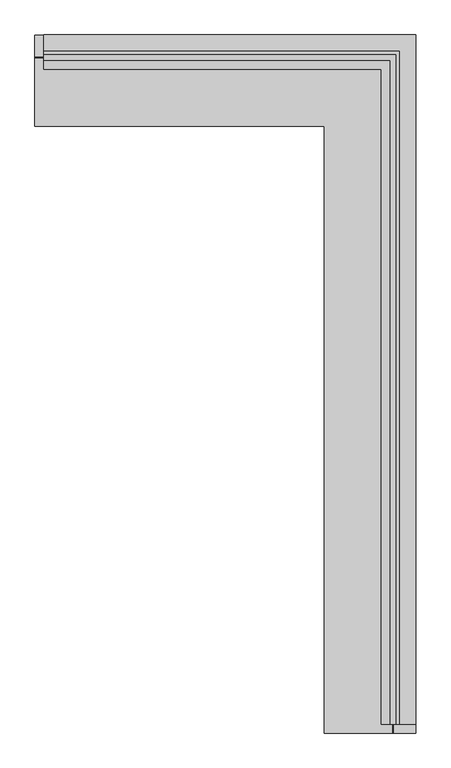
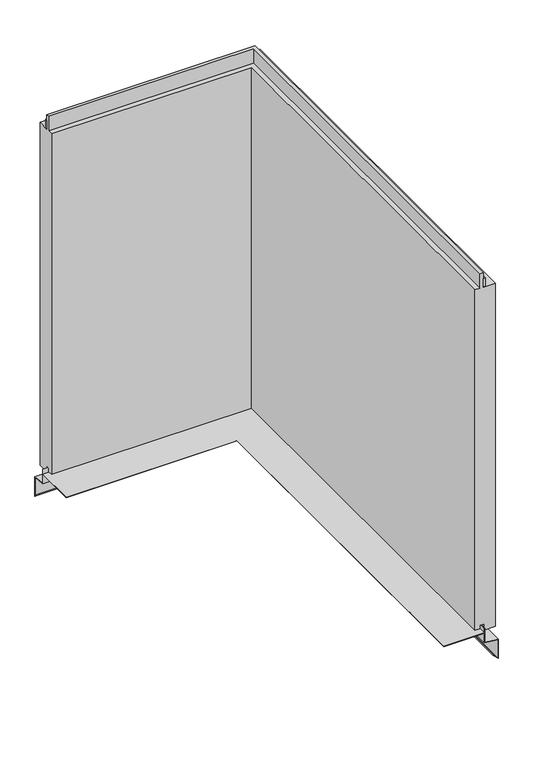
"""IFC4 building model written with IfcOpenShell, lengths in millimetres: plate geometry, Trimo_Qbiss Screen_L Corner Panel-HORIZONTAL : HR - B."""

from ifc_helpers import new_model, si_unit, frame, origin, place, context, project, spatial, polyline, outline, extrude, faceted_brep, source, transform, mapped, element, save


def plate_a4e683b8(model_context):
    return source(origin(), model_context, "Body", "SolidModel", [
        faceted_brep([(-226.25, 66.7, 14.0835797), (292.95, 66.7, 14.0835797), (292.95, -912.5, 14.0835797), (293.75, -912.5, 14.0835797), (293.75, 67.5, 14.0835797), (-226.25, 67.5, 14.0835797), (293.75, 67.5, -23.0), (-226.25, 67.5, -23.0), (326.25, 100.0, -25.8433816), (-226.25, 100.0, -25.8433816), (326.25, 100.0, -76.0), (-226.25, 100.0, -76.0), (313.4009533, 87.1509533, -63.1509533), (-226.25, 87.1509533, -63.1509533), (313.9666388, 87.7166388, -62.5852679), (-226.25, 87.7166388, -62.5852679), (325.45, 99.2, -74.0686292), (-226.25, 99.2, -74.0686292), (325.45, 99.2, -26.5764465), (-226.25, 99.2, -26.5764465), (292.95, 66.7, -23.7330649), (-226.25, 66.7, -23.7330649), (292.95, 66.7, 1.0), (-226.25, 66.7, 1.0), (292.95, -912.5, 1.0), (193.75, -912.5, 1.0), (193.75, -32.5, 1.0), (-226.25, -32.5, 1.0), (-226.25, -32.5, 1.8), (193.75, -32.5, 1.8), (193.75, -912.5, 1.8), (292.95, -912.5, 1.8), (292.95, 66.7, 1.8), (-226.25, 66.7, 1.8), (293.75, -912.5, -23.0), (326.25, -912.5, -25.8433816), (326.25, -912.5, -76.0), (313.4009533, -912.5, -63.1509533), (313.9666388, -912.5, -62.5852679), (325.45, -912.5, -74.0686292), (325.45, -912.5, -26.5764465), (292.95, -912.5, -23.7330649)], [[[0, 1, 2, 3, 4, 5]], [[4, 6, 7, 5]], [[6, 8, 9, 7]], [[8, 10, 11, 9]], [[10, 12, 13, 11]], [[12, 14, 15, 13]], [[14, 16, 17, 15]], [[16, 18, 19, 17]], [[18, 20, 21, 19]], [[20, 22, 23, 21]], [[23, 22, 24, 25, 26, 27]], [[28, 29, 30, 31, 32, 33]], [[32, 1, 0, 33]], [[6, 4, 3, 34]], [[8, 6, 34, 35]], [[10, 8, 35, 36]], [[12, 10, 36, 37]], [[14, 12, 37, 38]], [[16, 14, 38, 39]], [[18, 16, 39, 40]], [[20, 18, 40, 41]], [[22, 20, 41, 24]], [[1, 32, 31, 2]], [[0, 5, 7, 9, 11, 13, 15, 17, 19, 21, 23, 27, 28, 33]], [[3, 2, 31, 30, 25, 24, 41, 40, 39, 38, 37, 36, 35, 34]], [[26, 29, 28, 27]], [[29, 26, 25, 30]]]),
        extrude(outline(polyline([(-213.75, 71.0), (-213.75, 76.0), (302.25, 76.0), (302.25, -900.0), (297.25, -900.0), (297.25, 71.0), (-213.75, 71.0)])), frame((0.0, 0.0, 890.5), z_axis=(0.0, 0.0, 1.0), x_axis=(1.0, 0.0, 0.0)), (0.0, 0.0, 1.0), 21.0),
        faceted_brep([(-213.75, 71.0, 889.5), (-213.75, 100.0, 889.5), (-213.75, 100.0, 0.0), (-213.75, 72.0, 0.0), (-213.75, 72.0, 15.5), (-213.75, 62.0, 15.5), (-213.75, 62.0, 7.0), (-213.75, 50.0, 7.0), (-213.75, 50.0, 889.5), (-213.75, 63.0, 889.5), (-213.75, 63.0, 927.0), (-213.75, 71.0, 927.0), (297.25, 71.0, 889.5), (297.25, -900.0, 889.5), (326.25, -900.0, 889.5), (326.25, 100.0, 889.5), (326.25, 100.0, 0.0), (326.25, -900.0, 0.0), (298.25, -900.0, 0.0), (298.25, 72.0, 0.0), (298.25, 72.0, 15.5), (298.25, -900.0, 15.5), (288.25, -900.0, 15.5), (288.25, 62.0, 15.5), (288.25, 62.0, 7.0), (288.25, -900.0, 7.0), (276.25, -900.0, 7.0), (276.25, 50.0, 7.0), (276.25, 50.0, 889.5), (276.25, -900.0, 889.5), (289.25, -900.0, 889.5), (289.25, 63.0, 889.5), (289.25, 63.0, 927.0), (289.25, -900.0, 927.0), (297.25, -900.0, 927.0), (297.25, 71.0, 927.0)], [[[0, 1, 2, 3, 4, 5, 6, 7, 8, 9, 10, 11]], [[1, 0, 12, 13, 14, 15]], [[2, 1, 15, 16]], [[3, 2, 16, 17, 18, 19]], [[4, 3, 19, 20]], [[5, 4, 20, 21, 22, 23]], [[6, 5, 23, 24]], [[7, 6, 24, 25, 26, 27]], [[8, 7, 27, 28]], [[9, 8, 28, 29, 30, 31]], [[10, 9, 31, 32]], [[11, 10, 32, 33, 34, 35]], [[0, 11, 35, 12]], [[13, 34, 33, 30, 29, 26, 25, 22, 21, 18, 17, 14]], [[16, 15, 14, 17]], [[20, 19, 18, 21]], [[24, 23, 22, 25]], [[28, 27, 26, 29]], [[32, 31, 30, 33]], [[12, 35, 34, 13]]]),
    ])


if __name__ == "__main__":
    model = new_model("IFC4")
    model_context = context("Model", 3, world=origin())
    ifc_project = project(units=[si_unit("LENGTHUNIT", "METRE", prefix="MILLI")], contexts=[model_context])
    site = spatial("IfcSite", under=ifc_project)
    building = spatial("IfcBuilding", under=site)
    placement = place(None, origin())
    plate_shape = plate_a4e683b8(model_context)
    element("IfcPlate", 1, ObjectType="Trimo_Qbiss Screen_L Corner Panel-HORIZONTAL : HR - B", at=placement, inside=building, context=model_context, shape_type="MappedRepresentation", body=[
        mapped(plate_shape, transform((0.0, 0.0, 0.0), x_axis=(1.0, 0.0, 0.0), y_axis=(0.0, 1.0, 0.0), z_axis=(0.0, 0.0, 1.0))),
    ])
    save(model, "model.ifc")
